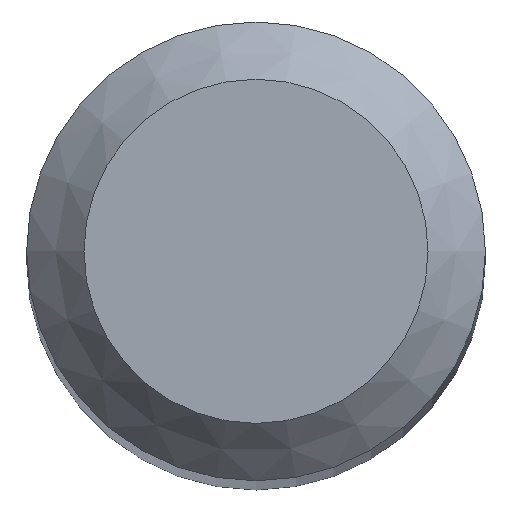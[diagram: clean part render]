
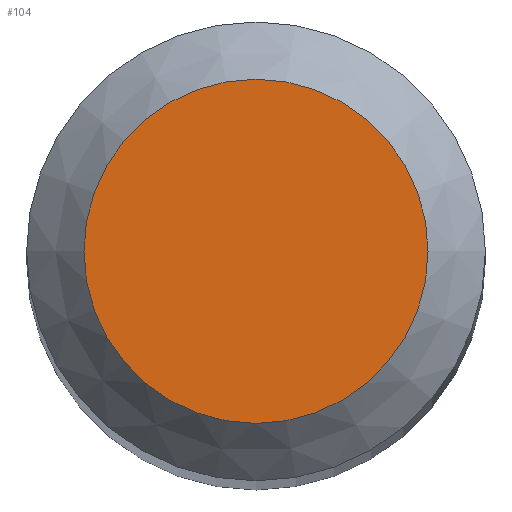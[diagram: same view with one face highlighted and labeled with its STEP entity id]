
A CAD part, top view. The second image highlights one B-rep face of the part: STEP entity #104.
In plain terms, the highlighted planar face has unit normal (0, 0, 1).
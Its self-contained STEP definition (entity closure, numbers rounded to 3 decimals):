
#88=CARTESIAN_POINT('',(1.5,0.0,130.0));
#89=DIRECTION('',(0.0,0.0,1.0));
#90=DIRECTION('',(1.0,0.0,0.0));
#91=AXIS2_PLACEMENT_3D('',#88,#89,#90);
#92=PLANE('',#91);
#93=CARTESIAN_POINT('',(-1.5,0.0,130.0));
#94=VERTEX_POINT('',#93);
#95=CARTESIAN_POINT('',(0.0,0.0,130.0));
#96=DIRECTION('',(0.0,0.0,-1.0));
#97=DIRECTION('',(-1.0,0.0,0.0));
#98=AXIS2_PLACEMENT_3D('',#95,#96,#97);
#99=CIRCLE('',#98,1.5);
#100=EDGE_CURVE('',#94,#94,#99,.T.);
#101=ORIENTED_EDGE('',*,*,#100,.F.);
#102=EDGE_LOOP('',(#101));
#103=FACE_OUTER_BOUND('',#102,.T.);
#104=ADVANCED_FACE('',(#103),#92,.T.);
